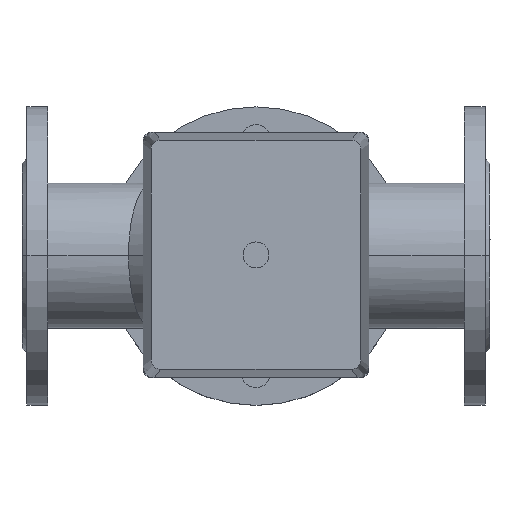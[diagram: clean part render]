
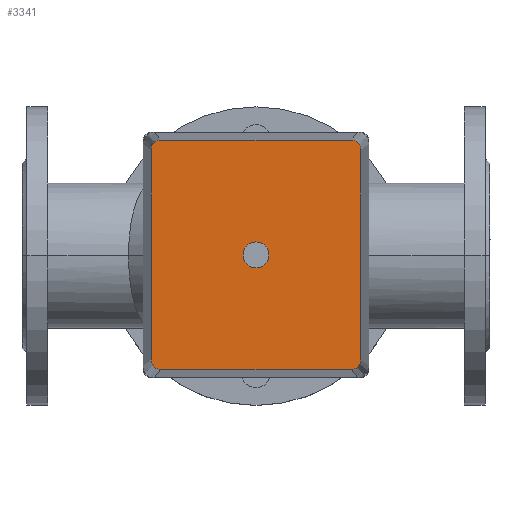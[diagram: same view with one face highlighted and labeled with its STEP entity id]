
A CAD part, top view. The second image highlights one B-rep face of the part: STEP entity #3341.
In plain terms, the highlighted planar face has unit normal (0, 0, 1).
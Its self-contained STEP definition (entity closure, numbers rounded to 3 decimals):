
#296=LINE('',#5742,#504);
#297=LINE('',#5746,#505);
#298=LINE('',#5750,#506);
#299=LINE('',#5754,#507);
#504=VECTOR('',#4608,304.8);
#505=VECTOR('',#4611,304.8);
#506=VECTOR('',#4614,304.8);
#507=VECTOR('',#4617,304.8);
#847=FACE_OUTER_BOUND('',#1077,.T.);
#1077=EDGE_LOOP('',(#2722,#2723,#2724,#2725,#2726,#2727,#2728,#2729));
#1304=CIRCLE('',#3719,6.);
#1305=CIRCLE('',#3720,6.);
#1306=CIRCLE('',#3721,6.);
#1307=CIRCLE('',#3722,6.);
#1584=VERTEX_POINT('',#5740);
#1585=VERTEX_POINT('',#5741);
#1586=VERTEX_POINT('',#5743);
#1587=VERTEX_POINT('',#5745);
#1588=VERTEX_POINT('',#5747);
#1589=VERTEX_POINT('',#5749);
#1590=VERTEX_POINT('',#5751);
#1591=VERTEX_POINT('',#5753);
#1978=EDGE_CURVE('',#1584,#1585,#296,.T.);
#1979=EDGE_CURVE('',#1585,#1586,#1304,.T.);
#1980=EDGE_CURVE('',#1586,#1587,#297,.T.);
#1981=EDGE_CURVE('',#1587,#1588,#1305,.T.);
#1982=EDGE_CURVE('',#1588,#1589,#298,.T.);
#1983=EDGE_CURVE('',#1589,#1590,#1306,.T.);
#1984=EDGE_CURVE('',#1590,#1591,#299,.T.);
#1985=EDGE_CURVE('',#1591,#1584,#1307,.T.);
#2722=ORIENTED_EDGE('',*,*,#1978,.T.);
#2723=ORIENTED_EDGE('',*,*,#1979,.T.);
#2724=ORIENTED_EDGE('',*,*,#1980,.T.);
#2725=ORIENTED_EDGE('',*,*,#1981,.T.);
#2726=ORIENTED_EDGE('',*,*,#1982,.T.);
#2727=ORIENTED_EDGE('',*,*,#1983,.T.);
#2728=ORIENTED_EDGE('',*,*,#1984,.T.);
#2729=ORIENTED_EDGE('',*,*,#1985,.T.);
#3029=PLANE('',#3718);
#3341=ADVANCED_FACE('',(#847),#3029,.T.);
#3718=AXIS2_PLACEMENT_3D('',#5739,#4606,#4607);
#3719=AXIS2_PLACEMENT_3D('',#5744,#4609,#4610);
#3720=AXIS2_PLACEMENT_3D('',#5748,#4612,#4613);
#3721=AXIS2_PLACEMENT_3D('',#5752,#4615,#4616);
#3722=AXIS2_PLACEMENT_3D('',#5755,#4618,#4619);
#4606=DIRECTION('center_axis',(0.,0.,1.));
#4607=DIRECTION('ref_axis',(0.,-1.,0.));
#4608=DIRECTION('',(0.,-1.,0.));
#4609=DIRECTION('center_axis',(0.,0.,1.));
#4610=DIRECTION('ref_axis',(1.,0.,0.));
#4611=DIRECTION('',(1.,0.,0.));
#4612=DIRECTION('center_axis',(0.,0.,1.));
#4613=DIRECTION('ref_axis',(1.,0.,0.));
#4614=DIRECTION('',(0.,1.,0.));
#4615=DIRECTION('center_axis',(0.,0.,1.));
#4616=DIRECTION('ref_axis',(1.,0.,0.));
#4617=DIRECTION('',(-1.,0.,0.));
#4618=DIRECTION('center_axis',(0.,0.,1.));
#4619=DIRECTION('ref_axis',(1.,0.,0.));
#5739=CARTESIAN_POINT('Origin',(0.,0.,
254.));
#5740=CARTESIAN_POINT('',(-71.,59.,254.));
#5741=CARTESIAN_POINT('',(-71.,-59.,254.));
#5742=CARTESIAN_POINT('',(-71.,-59.,254.));
#5743=CARTESIAN_POINT('',(-65.,-65.,254.));
#5744=CARTESIAN_POINT('Origin',(-65.,-59.,254.));
#5745=CARTESIAN_POINT('',(65.,-65.,254.));
#5746=CARTESIAN_POINT('',(65.,-65.,254.));
#5747=CARTESIAN_POINT('',(71.,-59.,254.));
#5748=CARTESIAN_POINT('Origin',(65.,-59.,254.));
#5749=CARTESIAN_POINT('',(71.,59.,254.));
#5750=CARTESIAN_POINT('',(71.,59.,254.));
#5751=CARTESIAN_POINT('',(65.,65.,254.));
#5752=CARTESIAN_POINT('Origin',(65.,59.,254.));
#5753=CARTESIAN_POINT('',(-65.,65.,254.));
#5754=CARTESIAN_POINT('',(-65.,65.,254.));
#5755=CARTESIAN_POINT('Origin',(-65.,59.,254.));
